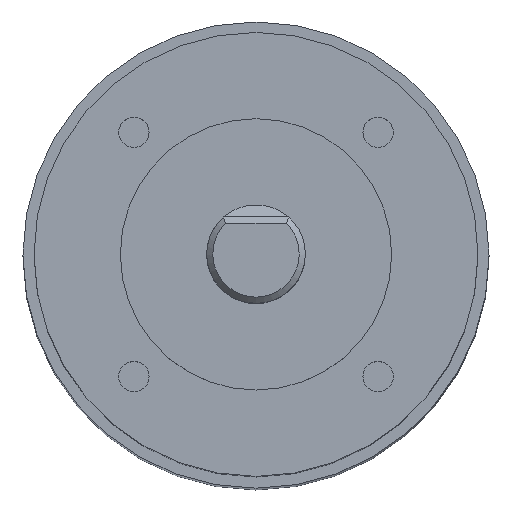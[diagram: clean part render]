
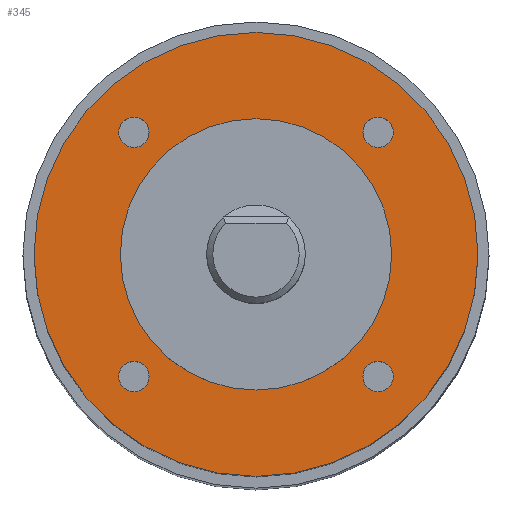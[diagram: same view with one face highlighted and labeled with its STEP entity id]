
A CAD part, top view. The second image highlights one B-rep face of the part: STEP entity #345.
In plain terms, the highlighted planar face has unit normal (0, 0, 1).
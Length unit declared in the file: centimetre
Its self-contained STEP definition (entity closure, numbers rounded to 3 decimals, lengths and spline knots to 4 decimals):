
#161=VERTEX_POINT('',#1137);
#163=VERTEX_POINT('',#1143);
#165=VERTEX_POINT('',#1149);
#167=VERTEX_POINT('',#1155);
#176=VERTEX_POINT('',#1191);
#177=VERTEX_POINT('',#1195);
#182=EDGE_CURVE('',#161,#161,#653,.T.);
#184=EDGE_CURVE('',#163,#163,#655,.T.);
#186=EDGE_CURVE('',#165,#165,#657,.T.);
#188=EDGE_CURVE('',#167,#167,#659,.T.);
#201=EDGE_CURVE('',#176,#176,#664,.T.);
#202=EDGE_CURVE('',#177,#177,#665,.T.);
#245=ORIENTED_EDGE('',*,*,#182,.T.);
#246=ORIENTED_EDGE('',*,*,#184,.T.);
#247=ORIENTED_EDGE('',*,*,#186,.T.);
#248=ORIENTED_EDGE('',*,*,#188,.T.);
#249=ORIENTED_EDGE('',*,*,#201,.T.);
#250=ORIENTED_EDGE('',*,*,#202,.F.);
#281=EDGE_LOOP('',(#245));
#282=EDGE_LOOP('',(#246));
#283=EDGE_LOOP('',(#247));
#284=EDGE_LOOP('',(#248));
#285=EDGE_LOOP('',(#249));
#286=EDGE_LOOP('',(#250));
#317=FACE_BOUND('',#281,.T.);
#318=FACE_BOUND('',#282,.T.);
#319=FACE_BOUND('',#283,.T.);
#320=FACE_BOUND('',#284,.T.);
#321=FACE_BOUND('',#285,.T.);
#322=FACE_BOUND('',#286,.T.);
#345=ADVANCED_FACE('',(#317,#318,#319,#320,#321,#322),#868,.T.);
#653=CIRCLE('',#791,0.123);
#655=CIRCLE('',#795,0.123);
#657=CIRCLE('',#799,0.123);
#659=CIRCLE('',#803,0.123);
#664=CIRCLE('',#817,1.1);
#665=CIRCLE('',#820,1.8);
#791=AXIS2_PLACEMENT_3D('',#1136,#978,#979);
#795=AXIS2_PLACEMENT_3D('',#1142,#985,#986);
#799=AXIS2_PLACEMENT_3D('',#1148,#992,#993);
#803=AXIS2_PLACEMENT_3D('',#1154,#999,#1000);
#817=AXIS2_PLACEMENT_3D('',#1190,#1027,#1028);
#820=AXIS2_PLACEMENT_3D('',#1194,#1032,#1033);
#822=AXIS2_PLACEMENT_3D('',#1198,#1036,$);
#868=PLANE('',#822);
#978=DIRECTION('',(0.,0.,-1.));
#979=DIRECTION('',(0.,0.123,0.));
#985=DIRECTION('',(0.,0.,-1.));
#986=DIRECTION('',(0.,0.123,0.));
#992=DIRECTION('',(0.,0.,-1.));
#993=DIRECTION('',(0.,0.123,0.));
#999=DIRECTION('',(0.,0.,-1.));
#1000=DIRECTION('',(0.,0.123,0.));
#1027=DIRECTION('',(0.,0.,-1.));
#1028=DIRECTION('',(1.1,0.,0.));
#1032=DIRECTION('',(0.,0.,-1.));
#1033=DIRECTION('',(1.8,0.,0.));
#1036=DIRECTION('',(0.,0.,1.));
#1136=CARTESIAN_POINT('',(-0.9899,-0.9899,11.69));
#1137=CARTESIAN_POINT('',(-0.9899,-0.867,11.69));
#1142=CARTESIAN_POINT('',(0.9899,-0.9899,11.69));
#1143=CARTESIAN_POINT('',(0.9899,-0.867,11.69));
#1148=CARTESIAN_POINT('',(0.9899,0.9899,11.69));
#1149=CARTESIAN_POINT('',(0.9899,1.1129,11.69));
#1154=CARTESIAN_POINT('',(-0.9899,0.9899,11.69));
#1155=CARTESIAN_POINT('',(-0.9899,1.1129,11.69));
#1190=CARTESIAN_POINT('',(0.,0.,11.69));
#1191=CARTESIAN_POINT('',(1.1,0.,11.69));
#1194=CARTESIAN_POINT('',(0.,0.,11.69));
#1195=CARTESIAN_POINT('',(1.8,0.,11.69));
#1198=CARTESIAN_POINT('',(0.,0.,11.69));
